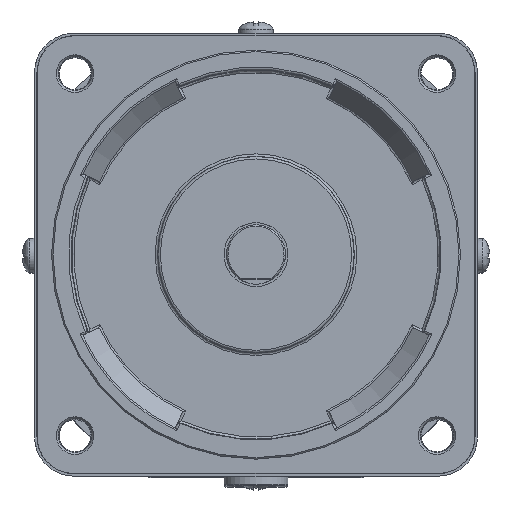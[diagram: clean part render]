
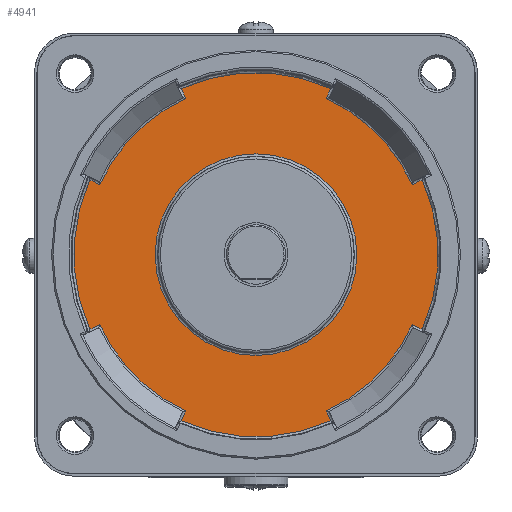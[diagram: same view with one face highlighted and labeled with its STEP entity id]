
A CAD part, top view. The second image highlights one B-rep face of the part: STEP entity #4941.
In plain terms, the highlighted planar face has unit normal (0, 0, 1).
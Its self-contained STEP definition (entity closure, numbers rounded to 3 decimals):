
#448 = ORIENTED_EDGE ( 'NONE', *, *, #8304, .T. ) ;
#486 = VERTEX_POINT ( 'NONE', #10359 ) ;
#558 = CIRCLE ( 'NONE', #2296, 37.013 ) ;
#602 = CARTESIAN_POINT ( 'NONE',  ( 33.753, 15.188, -2. ) ) ;
#733 = CARTESIAN_POINT ( 'NONE',  ( 0., 0., -2. ) ) ;
#776 = LINE ( 'NONE', #6949, #8399 ) ;
#1042 = CARTESIAN_POINT ( 'NONE',  ( 0., 0., -2. ) ) ;
#1154 = CARTESIAN_POINT ( 'NONE',  ( 15.395, 34.198, -2. ) ) ;
#1211 = CARTESIAN_POINT ( 'NONE',  ( 31.725, -14.242, -2. ) ) ;
#1239 = VERTEX_POINT ( 'NONE', #13873 ) ;
#1394 = EDGE_CURVE ( 'NONE', #486, #2315, #14732, .T. ) ;
#1457 = VECTOR ( 'NONE', #7041, 1000. ) ;
#1485 = LINE ( 'NONE', #14956, #11146 ) ;
#1508 = ORIENTED_EDGE ( 'NONE', *, *, #10846, .T. ) ;
#1639 = CARTESIAN_POINT ( 'NONE',  ( -15.188, -33.753, -2. ) ) ;
#1694 = VERTEX_POINT ( 'NONE', #602 ) ;
#1790 = AXIS2_PLACEMENT_3D ( 'NONE', #8833, #7642, #6612 ) ;
#1831 = EDGE_CURVE ( 'NONE', #6157, #13193, #15355, .T. ) ;
#1947 = VERTEX_POINT ( 'NONE', #1639 ) ;
#2107 = VERTEX_POINT ( 'NONE', #13846 ) ;
#2232 = CIRCLE ( 'NONE', #6735, 34.775 ) ;
#2296 = AXIS2_PLACEMENT_3D ( 'NONE', #1042, #4510, #15396 ) ;
#2306 = CARTESIAN_POINT ( 'NONE',  ( 14.242, 31.725, -2. ) ) ;
#2315 = VERTEX_POINT ( 'NONE', #13280 ) ;
#2328 = CIRCLE ( 'NONE', #9373, 20.491 ) ;
#2331 = DIRECTION ( 'NONE',  ( 1., 0., 0. ) ) ;
#2351 = VERTEX_POINT ( 'NONE', #9223 ) ;
#2465 = DIRECTION ( 'NONE',  ( 1., 0., 0. ) ) ;
#2537 = EDGE_CURVE ( 'NONE', #11838, #2351, #7065, .T. ) ;
#2590 = DIRECTION ( 'NONE',  ( 1., 0., 0. ) ) ;
#2655 = LINE ( 'NONE', #5094, #6787 ) ;
#2659 = CARTESIAN_POINT ( 'NONE',  ( 0., 0., -2. ) ) ;
#2685 = VECTOR ( 'NONE', #6112, 1000. ) ;
#3088 = ORIENTED_EDGE ( 'NONE', *, *, #9573, .T. ) ;
#3161 = DIRECTION ( 'NONE',  ( 0., 0., -1. ) ) ;
#3234 = EDGE_CURVE ( 'NONE', #1239, #14698, #2232, .T. ) ;
#3385 = EDGE_CURVE ( 'NONE', #8744, #11838, #4531, .T. ) ;
#3494 = CIRCLE ( 'NONE', #13824, 34.775 ) ;
#3698 = ORIENTED_EDGE ( 'NONE', *, *, #1831, .T. ) ;
#3769 = ORIENTED_EDGE ( 'NONE', *, *, #1394, .T. ) ;
#3973 = LINE ( 'NONE', #11138, #7623 ) ;
#4018 = EDGE_CURVE ( 'NONE', #11131, #9669, #14884, .T. ) ;
#4220 = VECTOR ( 'NONE', #9570, 1000. ) ;
#4510 = DIRECTION ( 'NONE',  ( 0., 0., 1. ) ) ;
#4531 = CIRCLE ( 'NONE', #11324, 37.013 ) ;
#4612 = CIRCLE ( 'NONE', #9879, 34.775 ) ;
#4821 = PLANE ( 'NONE',  #6811 ) ;
#4941 = ADVANCED_FACE ( 'NONE', ( #6932, #11915 ), #4821, .T. ) ;
#5094 = CARTESIAN_POINT ( 'NONE',  ( -0.211, 0.453, -2. ) ) ;
#5328 = CARTESIAN_POINT ( 'NONE',  ( 0., 0., -2. ) ) ;
#5524 = ORIENTED_EDGE ( 'NONE', *, *, #4018, .T. ) ;
#5704 = CARTESIAN_POINT ( 'NONE',  ( 0., 0., -2. ) ) ;
#6087 = CARTESIAN_POINT ( 'NONE',  ( -15.188, 33.753, -2. ) ) ;
#6112 = DIRECTION ( 'NONE',  ( -0.906, 0.423, 0. ) ) ;
#6157 = VERTEX_POINT ( 'NONE', #1211 ) ;
#6612 = DIRECTION ( 'NONE',  ( 1., 0., 0. ) ) ;
#6727 = CARTESIAN_POINT ( 'NONE',  ( -33.753, -15.188, -2. ) ) ;
#6735 = AXIS2_PLACEMENT_3D ( 'NONE', #8554, #12188, #11623 ) ;
#6757 = DIRECTION ( 'NONE',  ( 1., 0., 0. ) ) ;
#6787 = VECTOR ( 'NONE', #13531, 1000. ) ;
#6811 = AXIS2_PLACEMENT_3D ( 'NONE', #13268, #14138, #2465 ) ;
#6834 = DIRECTION ( 'NONE',  ( -0.423, 0.906, 0. ) ) ;
#6854 = EDGE_CURVE ( 'NONE', #14698, #8744, #8462, .T. ) ;
#6932 = FACE_OUTER_BOUND ( 'NONE', #14966, .T. ) ;
#6949 = CARTESIAN_POINT ( 'NONE',  ( 0.211, -0.453, -2. ) ) ;
#7041 = DIRECTION ( 'NONE',  ( 0.906, -0.423, 0. ) ) ;
#7065 = LINE ( 'NONE', #12044, #9760 ) ;
#7208 = ORIENTED_EDGE ( 'NONE', *, *, #11984, .T. ) ;
#7363 = AXIS2_PLACEMENT_3D ( 'NONE', #5704, #10435, #14232 ) ;
#7623 = VECTOR ( 'NONE', #6834, 1000. ) ;
#7642 = DIRECTION ( 'NONE',  ( 0., 0., 1. ) ) ;
#7687 = CARTESIAN_POINT ( 'NONE',  ( 0., 0., -2. ) ) ;
#7712 = ORIENTED_EDGE ( 'NONE', *, *, #13141, .T. ) ;
#7772 = CARTESIAN_POINT ( 'NONE',  ( -31.725, -14.242, -2. ) ) ;
#7869 = CARTESIAN_POINT ( 'NONE',  ( 15.188, 33.753, -2. ) ) ;
#8033 = ORIENTED_EDGE ( 'NONE', *, *, #14254, .T. ) ;
#8038 = EDGE_CURVE ( 'NONE', #13193, #1694, #14319, .T. ) ;
#8155 = DIRECTION ( 'NONE',  ( 0., 0., 1. ) ) ;
#8304 = EDGE_CURVE ( 'NONE', #11971, #6157, #3494, .T. ) ;
#8307 = CARTESIAN_POINT ( 'NONE',  ( 34.198, -15.395, -2. ) ) ;
#8385 = CARTESIAN_POINT ( 'NONE',  ( 0., 0., -2. ) ) ;
#8399 = VECTOR ( 'NONE', #15196, 1000. ) ;
#8448 = VERTEX_POINT ( 'NONE', #13436 ) ;
#8462 = LINE ( 'NONE', #1154, #4220 ) ;
#8554 = CARTESIAN_POINT ( 'NONE',  ( 0., 0., -2. ) ) ;
#8566 = DIRECTION ( 'NONE',  ( 0., 0., 1. ) ) ;
#8744 = VERTEX_POINT ( 'NONE', #7869 ) ;
#8833 = CARTESIAN_POINT ( 'NONE',  ( 0., 0., -2. ) ) ;
#8891 = EDGE_CURVE ( 'NONE', #14231, #11131, #2655, .T. ) ;
#9223 = CARTESIAN_POINT ( 'NONE',  ( -14.242, 31.725, -2. ) ) ;
#9234 = ORIENTED_EDGE ( 'NONE', *, *, #3234, .T. ) ;
#9373 = AXIS2_PLACEMENT_3D ( 'NONE', #733, #3161, #6757 ) ;
#9570 = DIRECTION ( 'NONE',  ( 0.423, 0.906, 0. ) ) ;
#9573 = EDGE_CURVE ( 'NONE', #2315, #14231, #558, .T. ) ;
#9669 = VERTEX_POINT ( 'NONE', #14600 ) ;
#9760 = VECTOR ( 'NONE', #10622, 1000. ) ;
#9879 = AXIS2_PLACEMENT_3D ( 'NONE', #2659, #14875, #10998 ) ;
#10124 = DIRECTION ( 'NONE',  ( 0., 0., 1. ) ) ;
#10359 = CARTESIAN_POINT ( 'NONE',  ( -31.725, 14.242, -2. ) ) ;
#10396 = CARTESIAN_POINT ( 'NONE',  ( 14.242, -31.725, -2. ) ) ;
#10435 = DIRECTION ( 'NONE',  ( 0., 0., 1. ) ) ;
#10622 = DIRECTION ( 'NONE',  ( 0.423, -0.906, 0. ) ) ;
#10846 = EDGE_CURVE ( 'NONE', #8448, #8448, #2328, .T. ) ;
#10998 = DIRECTION ( 'NONE',  ( 1., 0., 0. ) ) ;
#11009 = ORIENTED_EDGE ( 'NONE', *, *, #3385, .T. ) ;
#11131 = VERTEX_POINT ( 'NONE', #7772 ) ;
#11138 = CARTESIAN_POINT ( 'NONE',  ( -0.453, -0.211, -2. ) ) ;
#11146 = VECTOR ( 'NONE', #12260, 1000. ) ;
#11324 = AXIS2_PLACEMENT_3D ( 'NONE', #5328, #10124, #14957 ) ;
#11623 = DIRECTION ( 'NONE',  ( 1., 0., 0. ) ) ;
#11653 = ORIENTED_EDGE ( 'NONE', *, *, #6854, .T. ) ;
#11708 = EDGE_CURVE ( 'NONE', #1947, #2107, #14180, .T. ) ;
#11838 = VERTEX_POINT ( 'NONE', #6087 ) ;
#11880 = ORIENTED_EDGE ( 'NONE', *, *, #8891, .T. ) ;
#11915 = FACE_BOUND ( 'NONE', #13509, .T. ) ;
#11971 = VERTEX_POINT ( 'NONE', #10396 ) ;
#11984 = EDGE_CURVE ( 'NONE', #2107, #11971, #3973, .T. ) ;
#12044 = CARTESIAN_POINT ( 'NONE',  ( 0.453, 0.211, -2. ) ) ;
#12188 = DIRECTION ( 'NONE',  ( 0., 0., 1. ) ) ;
#12260 = DIRECTION ( 'NONE',  ( -0.423, -0.906, 0. ) ) ;
#12347 = CARTESIAN_POINT ( 'NONE',  ( -34.198, 15.395, -2. ) ) ;
#12560 = AXIS2_PLACEMENT_3D ( 'NONE', #7687, #8566, #2590 ) ;
#13004 = EDGE_CURVE ( 'NONE', #9669, #1947, #1485, .T. ) ;
#13141 = EDGE_CURVE ( 'NONE', #2351, #486, #4612, .T. ) ;
#13193 = VERTEX_POINT ( 'NONE', #13421 ) ;
#13268 = CARTESIAN_POINT ( 'NONE',  ( 0., 0., -2. ) ) ;
#13280 = CARTESIAN_POINT ( 'NONE',  ( -33.753, 15.188, -2. ) ) ;
#13421 = CARTESIAN_POINT ( 'NONE',  ( 33.753, -15.188, -2. ) ) ;
#13436 = CARTESIAN_POINT ( 'NONE',  ( 20.491, 0., -2. ) ) ;
#13509 = EDGE_LOOP ( 'NONE', ( #1508 ) ) ;
#13531 = DIRECTION ( 'NONE',  ( 0.906, 0.423, 0. ) ) ;
#13824 = AXIS2_PLACEMENT_3D ( 'NONE', #8385, #8155, #2331 ) ;
#13825 = ORIENTED_EDGE ( 'NONE', *, *, #2537, .T. ) ;
#13846 = CARTESIAN_POINT ( 'NONE',  ( 15.188, -33.753, -2. ) ) ;
#13873 = CARTESIAN_POINT ( 'NONE',  ( 31.725, 14.242, -2. ) ) ;
#14138 = DIRECTION ( 'NONE',  ( 0., 0., 1. ) ) ;
#14180 = CIRCLE ( 'NONE', #7363, 37.013 ) ;
#14231 = VERTEX_POINT ( 'NONE', #6727 ) ;
#14232 = DIRECTION ( 'NONE',  ( 1., 0., 0. ) ) ;
#14254 = EDGE_CURVE ( 'NONE', #1694, #1239, #776, .T. ) ;
#14319 = CIRCLE ( 'NONE', #12560, 37.013 ) ;
#14600 = CARTESIAN_POINT ( 'NONE',  ( -14.242, -31.725, -2. ) ) ;
#14698 = VERTEX_POINT ( 'NONE', #2306 ) ;
#14732 = LINE ( 'NONE', #12347, #2685 ) ;
#14862 = ORIENTED_EDGE ( 'NONE', *, *, #11708, .T. ) ;
#14875 = DIRECTION ( 'NONE',  ( 0., 0., 1. ) ) ;
#14884 = CIRCLE ( 'NONE', #1790, 34.775 ) ;
#14941 = ORIENTED_EDGE ( 'NONE', *, *, #13004, .T. ) ;
#14956 = CARTESIAN_POINT ( 'NONE',  ( -15.395, -34.198, -2. ) ) ;
#14957 = DIRECTION ( 'NONE',  ( 1., 0., 0. ) ) ;
#14966 = EDGE_LOOP ( 'NONE', ( #448, #3698, #15244, #8033, #9234, #11653, #11009, #13825, #7712, #3769, #3088, #11880, #5524, #14941, #14862, #7208 ) ) ;
#15196 = DIRECTION ( 'NONE',  ( -0.906, -0.423, 0. ) ) ;
#15244 = ORIENTED_EDGE ( 'NONE', *, *, #8038, .T. ) ;
#15355 = LINE ( 'NONE', #8307, #1457 ) ;
#15396 = DIRECTION ( 'NONE',  ( 1., 0., 0. ) ) ;
